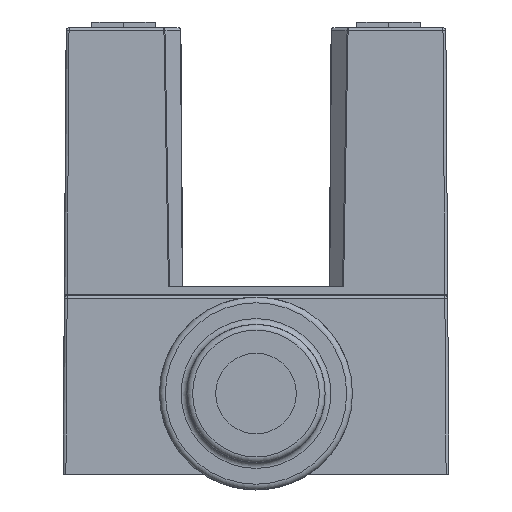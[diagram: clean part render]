
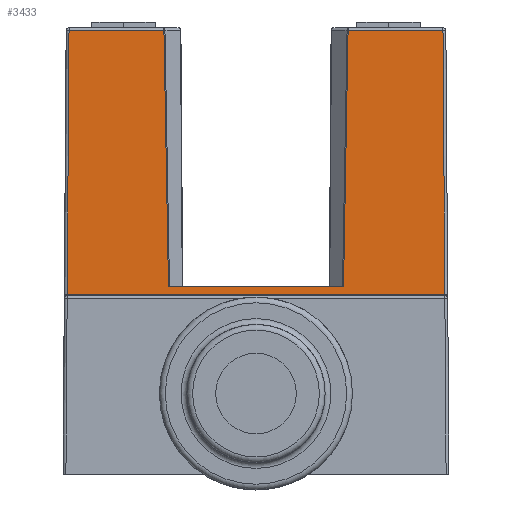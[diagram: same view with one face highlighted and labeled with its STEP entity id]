
A CAD part, front view. The second image highlights one B-rep face of the part: STEP entity #3433.
In plain terms, the highlighted planar face has unit normal (0, -1, 0.007).
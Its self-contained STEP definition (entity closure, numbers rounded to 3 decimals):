
#258=LINE('',#5442,#562);
#275=LINE('',#5578,#579);
#276=LINE('',#5581,#580);
#277=LINE('',#5583,#581);
#278=LINE('',#5585,#582);
#279=LINE('',#5587,#583);
#280=LINE('',#5589,#584);
#281=LINE('',#5590,#585);
#562=VECTOR('',#4389,1.);
#579=VECTOR('',#4432,1.);
#580=VECTOR('',#4435,1.);
#581=VECTOR('',#4436,1.);
#582=VECTOR('',#4437,1.);
#583=VECTOR('',#4438,1.);
#584=VECTOR('',#4439,1.);
#585=VECTOR('',#4440,1.);
#793=PLANE('',#3722);
#1020=FACE_OUTER_BOUND('',#1264,.T.);
#1264=EDGE_LOOP('',(#2755,#2756,#2757,#2758,#2759,#2760,#2761,#2762));
#1677=VERTEX_POINT('',#5440);
#1678=VERTEX_POINT('',#5441);
#1691=VERTEX_POINT('',#5576);
#1692=VERTEX_POINT('',#5580);
#1693=VERTEX_POINT('',#5582);
#1694=VERTEX_POINT('',#5584);
#1695=VERTEX_POINT('',#5586);
#1696=VERTEX_POINT('',#5588);
#2042=EDGE_CURVE('',#1677,#1678,#258,.T.);
#2065=EDGE_CURVE('',#1678,#1691,#275,.T.);
#2066=EDGE_CURVE('',#1692,#1691,#276,.T.);
#2067=EDGE_CURVE('',#1692,#1693,#277,.T.);
#2068=EDGE_CURVE('',#1694,#1693,#278,.T.);
#2069=EDGE_CURVE('',#1694,#1695,#279,.T.);
#2070=EDGE_CURVE('',#1695,#1696,#280,.T.);
#2071=EDGE_CURVE('',#1696,#1677,#281,.T.);
#2755=ORIENTED_EDGE('',*,*,#2066,.F.);
#2756=ORIENTED_EDGE('',*,*,#2067,.T.);
#2757=ORIENTED_EDGE('',*,*,#2068,.F.);
#2758=ORIENTED_EDGE('',*,*,#2069,.T.);
#2759=ORIENTED_EDGE('',*,*,#2070,.T.);
#2760=ORIENTED_EDGE('',*,*,#2071,.T.);
#2761=ORIENTED_EDGE('',*,*,#2042,.T.);
#2762=ORIENTED_EDGE('',*,*,#2065,.T.);
#3433=ADVANCED_FACE('',(#1020),#793,.T.);
#3722=AXIS2_PLACEMENT_3D('',#5579,#4433,#4434);
#4389=DIRECTION('',(-0.007,-0.007,-1.));
#4432=DIRECTION('',(1.,0.,0.));
#4433=DIRECTION('center_axis',(0.,-1.,0.007));
#4434=DIRECTION('ref_axis',(-1.,0.,0.));
#4435=DIRECTION('',(0.007,-0.007,-1.));
#4436=DIRECTION('',(-1.,0.,0.));
#4437=DIRECTION('',(0.018,0.007,1.));
#4438=DIRECTION('',(-1.,0.,0.));
#4439=DIRECTION('',(-0.018,0.007,1.));
#4440=DIRECTION('',(-1.,0.,0.));
#5440=CARTESIAN_POINT('',(-4.906,16.859,7.551));
#5441=CARTESIAN_POINT('',(-4.97,16.795,-1.6));
#5442=CARTESIAN_POINT('',(-4.906,16.859,7.551));
#5576=CARTESIAN_POINT('',(8.143,16.795,-1.6));
#5578=CARTESIAN_POINT('',(-4.97,16.795,-1.6));
#5579=CARTESIAN_POINT('Origin',(-6.532,16.751,-7.85));
#5580=CARTESIAN_POINT('',(8.079,16.859,7.551));
#5581=CARTESIAN_POINT('',(8.079,16.859,7.551));
#5582=CARTESIAN_POINT('',(4.784,16.859,7.551));
#5583=CARTESIAN_POINT('',(8.079,16.859,7.551));
#5584=CARTESIAN_POINT('',(4.626,16.797,-1.35));
#5585=CARTESIAN_POINT('',(4.626,16.797,-1.35));
#5586=CARTESIAN_POINT('',(-1.453,16.797,-1.35));
#5587=CARTESIAN_POINT('',(4.626,16.797,-1.35));
#5588=CARTESIAN_POINT('',(-1.61,16.859,7.551));
#5589=CARTESIAN_POINT('',(-1.453,16.797,-1.35));
#5590=CARTESIAN_POINT('',(-1.61,16.859,7.551));
